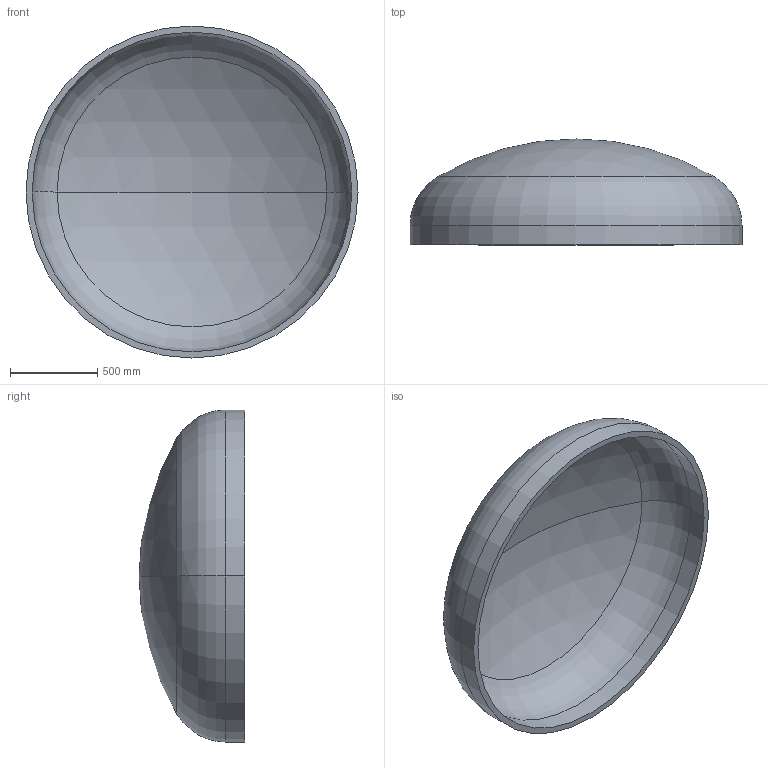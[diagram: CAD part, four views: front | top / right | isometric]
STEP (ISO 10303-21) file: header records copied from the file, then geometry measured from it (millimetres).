
FILE_DESCRIPTION (( 'STEP AP203' ), '1' );
FILE_NAME ('DIN 28013 Korbbogenform_-_Boden DIN 28013 - 1900 x 110 - I - s=35.step', '2016-07-01T13:06:17', ( '' ), ( '' ), 'SwSTEP 2.0', 'SolidWorks 2013', '' );
FILE_SCHEMA (( 'CONFIG_CONTROL_DESIGN' ));
Length unit declared in the file: millimetre
Products named in the file (1): DIN 28013 Korbbogenform_-_Boden DIN 28013 - 1900 x 110 - I - s=35
Bounding box: 1900 x 605.63 x 1900 mm (x, y, z)
Volume: 156463858.1 mm3; surface area: 9148422.1 mm2
Topology: 1 solids, 1 shells, 13 faces, 24 edges, 14 vertices
Faces by surface type: torus 4, cylinder 4, sphere 4, plane 1
Entity records: 407 total; most frequent: DIRECTION 72, CARTESIAN_POINT 52, ORIENTED_EDGE 48, AXIS2_PLACEMENT_3D 34, EDGE_CURVE 24, CIRCLE 20, VERTEX_POINT 14, EDGE_LOOP 14
